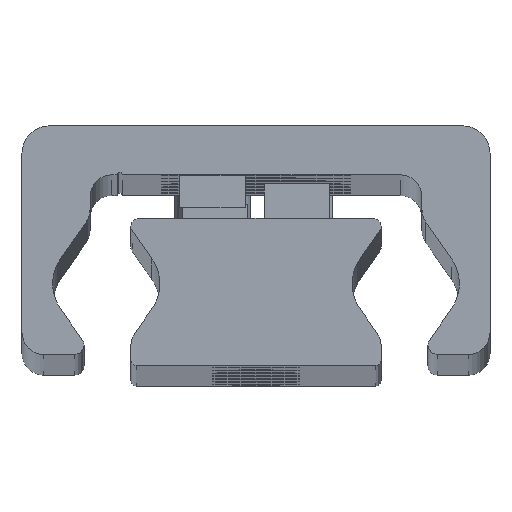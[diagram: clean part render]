
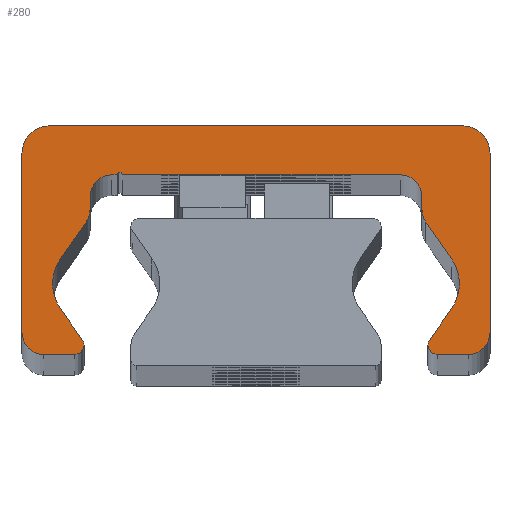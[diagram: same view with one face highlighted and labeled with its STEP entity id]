
A CAD part, top view. The second image highlights one B-rep face of the part: STEP entity #280.
In plain terms, the highlighted planar face has unit normal (0, 0, 1).
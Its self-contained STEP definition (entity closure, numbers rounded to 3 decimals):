
#280=ADVANCED_FACE('',(#774),#775,.T.);
#774=FACE_OUTER_BOUND('',#1269,.T.);
#775=PLANE('',#1270);
#1269=EDGE_LOOP('',(#2938,#2939,#2940,#2941,#2942,#2943,#2944,#2945,#2946,#2947,#2948,#2949,#2950,#2951,#2952,#2953,#2954,#2955,#2956,#2957,#2958,#2959,#2960,#2961,#2962,#2963,#2964,#2965,#2966,#2967));
#1270=AXIS2_PLACEMENT_3D('',#2968,#2969,#2970);
#2938=ORIENTED_EDGE('',*,*,#3299,.F.);
#2939=ORIENTED_EDGE('',*,*,#3542,.F.);
#2940=ORIENTED_EDGE('',*,*,#3285,.F.);
#2941=ORIENTED_EDGE('',*,*,#3541,.F.);
#2942=ORIENTED_EDGE('',*,*,#3537,.F.);
#2943=ORIENTED_EDGE('',*,*,#3534,.F.);
#2944=ORIENTED_EDGE('',*,*,#3531,.F.);
#2945=ORIENTED_EDGE('',*,*,#3528,.F.);
#2946=ORIENTED_EDGE('',*,*,#3525,.F.);
#2947=ORIENTED_EDGE('',*,*,#3522,.F.);
#2948=ORIENTED_EDGE('',*,*,#3519,.F.);
#2949=ORIENTED_EDGE('',*,*,#3516,.F.);
#2950=ORIENTED_EDGE('',*,*,#3513,.F.);
#2951=ORIENTED_EDGE('',*,*,#3510,.F.);
#2952=ORIENTED_EDGE('',*,*,#3291,.F.);
#2953=ORIENTED_EDGE('',*,*,#3508,.F.);
#2954=ORIENTED_EDGE('',*,*,#3293,.F.);
#2955=ORIENTED_EDGE('',*,*,#3507,.F.);
#2956=ORIENTED_EDGE('',*,*,#3503,.F.);
#2957=ORIENTED_EDGE('',*,*,#3500,.F.);
#2958=ORIENTED_EDGE('',*,*,#3497,.F.);
#2959=ORIENTED_EDGE('',*,*,#3494,.F.);
#2960=ORIENTED_EDGE('',*,*,#3491,.F.);
#2961=ORIENTED_EDGE('',*,*,#3488,.F.);
#2962=ORIENTED_EDGE('',*,*,#3485,.F.);
#2963=ORIENTED_EDGE('',*,*,#3482,.F.);
#2964=ORIENTED_EDGE('',*,*,#3479,.F.);
#2965=ORIENTED_EDGE('',*,*,#3476,.F.);
#2966=ORIENTED_EDGE('',*,*,#3473,.F.);
#2967=ORIENTED_EDGE('',*,*,#3470,.F.);
#2968=CARTESIAN_POINT('',(-0.023,14.187,1090.0));
#2969=DIRECTION('',(0.0,0.0,1.0));
#2970=DIRECTION('',(1.0,0.0,0.0));
#3285=EDGE_CURVE('',#3992,#3995,#3996,.T.);
#3291=EDGE_CURVE('',#4005,#4001,#4007,.T.);
#3293=EDGE_CURVE('',#4008,#4011,#4012,.T.);
#3299=EDGE_CURVE('',#4021,#4017,#4023,.T.);
#3470=EDGE_CURVE('',#4017,#4298,#4299,.T.);
#3473=EDGE_CURVE('',#4298,#4303,#4304,.T.);
#3476=EDGE_CURVE('',#4303,#4308,#4309,.T.);
#3479=EDGE_CURVE('',#4308,#4313,#4314,.T.);
#3482=EDGE_CURVE('',#4313,#4318,#4319,.T.);
#3485=EDGE_CURVE('',#4318,#4323,#4324,.T.);
#3488=EDGE_CURVE('',#4323,#4328,#4329,.T.);
#3491=EDGE_CURVE('',#4328,#4333,#4334,.T.);
#3494=EDGE_CURVE('',#4333,#4338,#4339,.T.);
#3497=EDGE_CURVE('',#4338,#4343,#4344,.T.);
#3500=EDGE_CURVE('',#4343,#4348,#4349,.T.);
#3503=EDGE_CURVE('',#4348,#4353,#4354,.T.);
#3507=EDGE_CURVE('',#4353,#4008,#4359,.T.);
#3508=EDGE_CURVE('',#4011,#4005,#4360,.T.);
#3510=EDGE_CURVE('',#4001,#4362,#4363,.T.);
#3513=EDGE_CURVE('',#4362,#4367,#4368,.T.);
#3516=EDGE_CURVE('',#4367,#4372,#4373,.T.);
#3519=EDGE_CURVE('',#4372,#4377,#4378,.T.);
#3522=EDGE_CURVE('',#4377,#4382,#4383,.T.);
#3525=EDGE_CURVE('',#4382,#4387,#4388,.T.);
#3528=EDGE_CURVE('',#4387,#4392,#4393,.T.);
#3531=EDGE_CURVE('',#4392,#4397,#4398,.T.);
#3534=EDGE_CURVE('',#4397,#4402,#4403,.T.);
#3537=EDGE_CURVE('',#4402,#4407,#4408,.T.);
#3541=EDGE_CURVE('',#4407,#3992,#4413,.T.);
#3542=EDGE_CURVE('',#3995,#4021,#4414,.T.);
#3992=VERTEX_POINT('',#5008);
#3995=VERTEX_POINT('',#5012);
#3996=CIRCLE('',#5013,0.85);
#4001=VERTEX_POINT('',#5019);
#4005=VERTEX_POINT('',#5024);
#4007=CIRCLE('',#5027,0.85);
#4008=VERTEX_POINT('',#5028);
#4011=VERTEX_POINT('',#5032);
#4012=CIRCLE('',#5033,4.);
#4017=VERTEX_POINT('',#5039);
#4021=VERTEX_POINT('',#5044);
#4023=CIRCLE('',#5047,4.);
#4298=VERTEX_POINT('',#5404);
#4299=CIRCLE('',#5405,4.);
#4303=VERTEX_POINT('',#5410);
#4304=LINE('',#5411,#5412);
#4308=VERTEX_POINT('',#5418);
#4309=CIRCLE('',#5419,2.);
#4313=VERTEX_POINT('',#5424);
#4314=LINE('',#5425,#5426);
#4318=VERTEX_POINT('',#5432);
#4319=CIRCLE('',#5433,2.0);
#4323=VERTEX_POINT('',#5438);
#4324=LINE('',#5439,#5440);
#4328=VERTEX_POINT('',#5446);
#4329=CIRCLE('',#5447,0.25);
#4333=VERTEX_POINT('',#5452);
#4334=LINE('',#5453,#5454);
#4338=VERTEX_POINT('',#5460);
#4339=CIRCLE('',#5461,2.0);
#4343=VERTEX_POINT('',#5466);
#4344=LINE('',#5467,#5468);
#4348=VERTEX_POINT('',#5474);
#4349=CIRCLE('',#5475,2.0);
#4353=VERTEX_POINT('',#5480);
#4354=LINE('',#5481,#5482);
#4359=CIRCLE('',#5489,4.);
#4360=LINE('',#5490,#5491);
#4362=VERTEX_POINT('',#5494);
#4363=CIRCLE('',#5495,0.85);
#4367=VERTEX_POINT('',#5500);
#4368=LINE('',#5501,#5502);
#4372=VERTEX_POINT('',#5508);
#4373=CIRCLE('',#5509,2.);
#4377=VERTEX_POINT('',#5514);
#4378=LINE('',#5515,#5516);
#4382=VERTEX_POINT('',#5522);
#4383=CIRCLE('',#5523,2.5);
#4387=VERTEX_POINT('',#5528);
#4388=LINE('',#5529,#5530);
#4392=VERTEX_POINT('',#5536);
#4393=CIRCLE('',#5537,2.5);
#4397=VERTEX_POINT('',#5542);
#4398=LINE('',#5543,#5544);
#4402=VERTEX_POINT('',#5550);
#4403=CIRCLE('',#5551,2.);
#4407=VERTEX_POINT('',#5556);
#4408=LINE('',#5557,#5558);
#4413=CIRCLE('',#5565,0.85);
#4414=LINE('',#5566,#5567);
#5008=CARTESIAN_POINT('',(15.8,1.859,1090.0));
#5012=CARTESIAN_POINT('',(15.922,2.298,1090.0));
#5013=AXIS2_PLACEMENT_3D('',#6123,#6124,#6125);
#5019=CARTESIAN_POINT('',(-15.8,1.859,1090.0));
#5024=CARTESIAN_POINT('',(-15.922,2.298,1090.0));
#5027=AXIS2_PLACEMENT_3D('',#6135,#6136,#6137);
#5028=CARTESIAN_POINT('',(-18.688,7.509,1090.0));
#5032=CARTESIAN_POINT('',(-17.964,5.214,1090.0));
#5033=AXIS2_PLACEMENT_3D('',#6139,#6140,#6141);
#5039=CARTESIAN_POINT('',(18.688,7.509,1090.0));
#5044=CARTESIAN_POINT('',(17.964,5.214,1090.0));
#5047=AXIS2_PLACEMENT_3D('',#6151,#6152,#6153);
#5404=CARTESIAN_POINT('',(17.964,9.803,1090.0));
#5405=AXIS2_PLACEMENT_3D('',#6500,#6501,#6502);
#5410=CARTESIAN_POINT('',(15.612,13.163,1090.0));
#5411=CARTESIAN_POINT('',(15.612,13.163,1090.0));
#5412=VECTOR('',#6507,1.0);
#5418=CARTESIAN_POINT('',(15.25,14.31,1090.0));
#5419=AXIS2_PLACEMENT_3D('',#6510,#6511,#6512);
#5424=CARTESIAN_POINT('',(15.25,15.509,1090.0));
#5425=CARTESIAN_POINT('',(15.25,15.509,1090.0));
#5426=VECTOR('',#6517,1.0);
#5432=CARTESIAN_POINT('',(13.25,17.509,1090.0));
#5433=AXIS2_PLACEMENT_3D('',#6520,#6521,#6522);
#5438=CARTESIAN_POINT('',(-12.25,17.509,1090.0));
#5439=CARTESIAN_POINT('',(-12.25,17.509,1090.0));
#5440=VECTOR('',#6527,1.0);
#5446=CARTESIAN_POINT('',(-12.75,17.509,1090.0));
#5447=AXIS2_PLACEMENT_3D('',#6530,#6531,#6532);
#5452=CARTESIAN_POINT('',(-13.25,17.509,1090.0));
#5453=CARTESIAN_POINT('',(-13.25,17.509,1090.0));
#5454=VECTOR('',#6537,1.0);
#5460=CARTESIAN_POINT('',(-15.25,15.509,1090.0));
#5461=AXIS2_PLACEMENT_3D('',#6540,#6541,#6542);
#5466=CARTESIAN_POINT('',(-15.25,14.31,1090.0));
#5467=CARTESIAN_POINT('',(-15.25,14.31,1090.0));
#5468=VECTOR('',#6547,1.0);
#5474=CARTESIAN_POINT('',(-15.612,13.163,1090.0));
#5475=AXIS2_PLACEMENT_3D('',#6550,#6551,#6552);
#5480=CARTESIAN_POINT('',(-17.964,9.803,1090.0));
#5481=CARTESIAN_POINT('',(-17.964,9.803,1090.0));
#5482=VECTOR('',#6557,1.0);
#5489=AXIS2_PLACEMENT_3D('',#6563,#6564,#6565);
#5490=CARTESIAN_POINT('',(-15.922,2.298,1090.0));
#5491=VECTOR('',#6566,1.0);
#5494=CARTESIAN_POINT('',(-16.65,1.009,1090.0));
#5495=AXIS2_PLACEMENT_3D('',#6568,#6569,#6570);
#5500=CARTESIAN_POINT('',(-19.5,1.009,1090.0));
#5501=CARTESIAN_POINT('',(-19.5,1.009,1090.0));
#5502=VECTOR('',#6575,1.0);
#5508=CARTESIAN_POINT('',(-21.5,3.009,1090.0));
#5509=AXIS2_PLACEMENT_3D('',#6578,#6579,#6580);
#5514=CARTESIAN_POINT('',(-21.5,19.509,1090.0));
#5515=CARTESIAN_POINT('',(-21.5,19.509,1090.0));
#5516=VECTOR('',#6585,1.0);
#5522=CARTESIAN_POINT('',(-19.0,22.009,1090.0));
#5523=AXIS2_PLACEMENT_3D('',#6588,#6589,#6590);
#5528=CARTESIAN_POINT('',(19.0,22.009,1090.0));
#5529=CARTESIAN_POINT('',(19.0,22.009,1090.0));
#5530=VECTOR('',#6595,1.0);
#5536=CARTESIAN_POINT('',(21.5,19.509,1090.0));
#5537=AXIS2_PLACEMENT_3D('',#6598,#6599,#6600);
#5542=CARTESIAN_POINT('',(21.5,3.009,1090.0));
#5543=CARTESIAN_POINT('',(21.5,3.009,1090.0));
#5544=VECTOR('',#6605,1.0);
#5550=CARTESIAN_POINT('',(19.5,1.009,1090.0));
#5551=AXIS2_PLACEMENT_3D('',#6608,#6609,#6610);
#5556=CARTESIAN_POINT('',(16.65,1.009,1090.0));
#5557=CARTESIAN_POINT('',(16.65,1.009,1090.0));
#5558=VECTOR('',#6615,1.0);
#5565=AXIS2_PLACEMENT_3D('',#6621,#6622,#6623);
#5566=CARTESIAN_POINT('',(17.964,5.214,1090.0));
#5567=VECTOR('',#6624,1.0);
#6123=CARTESIAN_POINT('',(16.65,1.859,1090.0));
#6124=DIRECTION('',(0.0,0.0,-1.0));
#6125=DIRECTION('',(1.0,0.0,0.0));
#6135=CARTESIAN_POINT('',(-16.65,1.859,1090.0));
#6136=DIRECTION('',(0.0,0.0,-1.0));
#6137=DIRECTION('',(1.0,0.0,0.0));
#6139=CARTESIAN_POINT('',(-14.688,7.509,1090.0));
#6140=DIRECTION('',(0.0,0.0,1.0));
#6141=DIRECTION('',(1.0,0.0,0.0));
#6151=CARTESIAN_POINT('',(14.688,7.509,1090.0));
#6152=DIRECTION('',(0.0,0.0,1.0));
#6153=DIRECTION('',(1.0,0.0,0.0));
#6500=CARTESIAN_POINT('',(14.688,7.509,1090.0));
#6501=DIRECTION('',(0.0,0.0,1.0));
#6502=DIRECTION('',(1.0,0.0,0.0));
#6507=DIRECTION('',(-0.574,0.819,0.0));
#6510=CARTESIAN_POINT('',(17.25,14.31,1090.0));
#6511=DIRECTION('',(0.0,0.0,-1.0));
#6512=DIRECTION('',(1.0,0.0,0.0));
#6517=DIRECTION('',(0.0,1.0,0.0));
#6520=CARTESIAN_POINT('',(13.25,15.509,1090.0));
#6521=DIRECTION('',(0.0,0.0,1.0));
#6522=DIRECTION('',(1.0,0.0,0.0));
#6527=DIRECTION('',(-1.0,-0.0,-0.0));
#6530=CARTESIAN_POINT('',(-12.5,17.509,1090.0));
#6531=DIRECTION('',(0.0,0.0,1.0));
#6532=DIRECTION('',(1.0,0.0,0.0));
#6537=DIRECTION('',(-1.0,-0.0,-0.0));
#6540=CARTESIAN_POINT('',(-13.25,15.509,1090.0));
#6541=DIRECTION('',(0.0,0.0,1.0));
#6542=DIRECTION('',(1.0,0.0,0.0));
#6547=DIRECTION('',(-0.0,-1.0,-0.0));
#6550=CARTESIAN_POINT('',(-17.25,14.31,1090.0));
#6551=DIRECTION('',(0.0,0.0,-1.0));
#6552=DIRECTION('',(1.0,0.0,0.0));
#6557=DIRECTION('',(-0.574,-0.819,-0.0));
#6563=CARTESIAN_POINT('',(-14.688,7.509,1090.0));
#6564=DIRECTION('',(0.0,0.0,1.0));
#6565=DIRECTION('',(1.0,0.0,0.0));
#6566=DIRECTION('',(0.574,-0.819,0.0));
#6568=CARTESIAN_POINT('',(-16.65,1.859,1090.0));
#6569=DIRECTION('',(0.0,0.0,-1.0));
#6570=DIRECTION('',(1.0,0.0,0.0));
#6575=DIRECTION('',(-1.0,-0.0,-0.0));
#6578=CARTESIAN_POINT('',(-19.5,3.009,1090.0));
#6579=DIRECTION('',(0.0,0.0,-1.0));
#6580=DIRECTION('',(1.0,0.0,0.0));
#6585=DIRECTION('',(0.0,1.0,0.0));
#6588=CARTESIAN_POINT('',(-19.0,19.509,1090.0));
#6589=DIRECTION('',(0.0,0.0,-1.0));
#6590=DIRECTION('',(1.0,0.0,0.0));
#6595=DIRECTION('',(1.0,0.0,0.0));
#6598=CARTESIAN_POINT('',(19.0,19.509,1090.0));
#6599=DIRECTION('',(0.0,0.0,-1.0));
#6600=DIRECTION('',(1.0,0.0,0.0));
#6605=DIRECTION('',(-0.0,-1.0,-0.0));
#6608=CARTESIAN_POINT('',(19.5,3.009,1090.0));
#6609=DIRECTION('',(0.0,0.0,-1.0));
#6610=DIRECTION('',(1.0,0.0,0.0));
#6615=DIRECTION('',(-1.0,-0.0,-0.0));
#6621=CARTESIAN_POINT('',(16.65,1.859,1090.0));
#6622=DIRECTION('',(0.0,0.0,-1.0));
#6623=DIRECTION('',(1.0,0.0,0.0));
#6624=DIRECTION('',(0.574,0.819,0.0));
